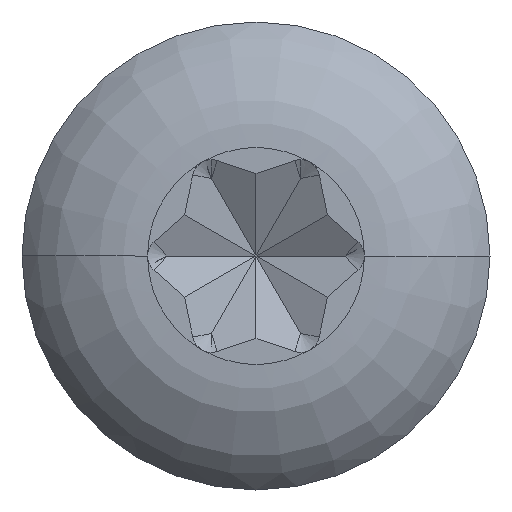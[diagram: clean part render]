
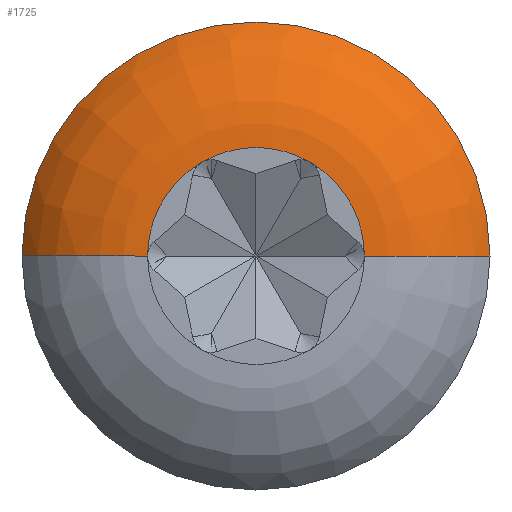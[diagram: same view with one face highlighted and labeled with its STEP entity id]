
A CAD part, left-side view. The second image highlights one B-rep face of the part: STEP entity #1725.
In plain terms, the highlighted toroidal (fillet/blend) face has major radius 2.528 mm and minor radius 3.5 mm.
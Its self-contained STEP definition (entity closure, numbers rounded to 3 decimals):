
#48 = CARTESIAN_POINT ( 'NONE',  ( -15., 0., 0. ) ) ;
#88 = DIRECTION ( 'NONE',  ( 0., -1., 0. ) ) ;
#97 = CARTESIAN_POINT ( 'NONE',  ( -13., 2.528, 0. ) ) ;
#184 = AXIS2_PLACEMENT_3D ( 'NONE', #1369, #626, #2963 ) ;
#231 = AXIS2_PLACEMENT_3D ( 'NONE', #1123, #1895, #2634 ) ;
#299 = CIRCLE ( 'NONE', #2809, 2.5 ) ;
#404 = CIRCLE ( 'NONE', #1892, 5.4 ) ;
#435 = EDGE_LOOP ( 'NONE', ( #2231, #2974, #2707, #1286, #776, #3054 ) ) ;
#482 = DIRECTION ( 'NONE',  ( 0., 0., -1. ) ) ;
#512 = VERTEX_POINT ( 'NONE', #1125 ) ;
#553 = DIRECTION ( 'NONE',  ( -1., 0., 0. ) ) ;
#566 = AXIS2_PLACEMENT_3D ( 'NONE', #97, #637, #1653 ) ;
#626 = DIRECTION ( 'NONE',  ( -1., 0., 0. ) ) ;
#637 = DIRECTION ( 'NONE',  ( 0., 0., 1. ) ) ;
#756 = VERTEX_POINT ( 'NONE', #3270 ) ;
#776 = ORIENTED_EDGE ( 'NONE', *, *, #2131, .F. ) ;
#800 = EDGE_CURVE ( 'NONE', #2331, #806, #884, .T. ) ;
#806 = VERTEX_POINT ( 'NONE', #1573 ) ;
#884 = CIRCLE ( 'NONE', #1412, 3.5 ) ;
#899 = EDGE_CURVE ( 'NONE', #2331, #1916, #404, .T. ) ;
#1036 = VERTEX_POINT ( 'NONE', #3220 ) ;
#1065 = DIRECTION ( 'NONE',  ( -1., 0., 0. ) ) ;
#1123 = CARTESIAN_POINT ( 'NONE',  ( -13., 0., 0. ) ) ;
#1125 = CARTESIAN_POINT ( 'NONE',  ( -16.5, -1.25, 2.165 ) ) ;
#1143 = DIRECTION ( 'NONE',  ( -1., 0., 0. ) ) ;
#1160 = DIRECTION ( 'NONE',  ( 0., -1., 0. ) ) ;
#1170 = DIRECTION ( 'NONE',  ( -1., 0., 0. ) ) ;
#1225 = CARTESIAN_POINT ( 'NONE',  ( -13., -2.528, 0. ) ) ;
#1286 = ORIENTED_EDGE ( 'NONE', *, *, #1941, .F. ) ;
#1369 = CARTESIAN_POINT ( 'NONE',  ( -16.5, 0., 0. ) ) ;
#1403 = CARTESIAN_POINT ( 'NONE',  ( -15., 5.4, 0. ) ) ;
#1412 = AXIS2_PLACEMENT_3D ( 'NONE', #1225, #482, #553 ) ;
#1523 = CIRCLE ( 'NONE', #184, 2.5 ) ;
#1573 = CARTESIAN_POINT ( 'NONE',  ( -16.5, -2.5, 0. ) ) ;
#1627 = AXIS2_PLACEMENT_3D ( 'NONE', #2899, #1170, #88 ) ;
#1650 = FACE_OUTER_BOUND ( 'NONE', #435, .T. ) ;
#1653 = DIRECTION ( 'NONE',  ( 0., -1., 0. ) ) ;
#1678 = CARTESIAN_POINT ( 'NONE',  ( -15., -5.4, 0. ) ) ;
#1725 = ADVANCED_FACE ( 'NONE', ( #1650 ), #2846, .T. ) ;
#1892 = AXIS2_PLACEMENT_3D ( 'NONE', #48, #1065, #3112 ) ;
#1895 = DIRECTION ( 'NONE',  ( -1., 0., 0. ) ) ;
#1916 = VERTEX_POINT ( 'NONE', #1403 ) ;
#1932 = CARTESIAN_POINT ( 'NONE',  ( -16.5, 0., 0. ) ) ;
#1941 = EDGE_CURVE ( 'NONE', #512, #756, #1523, .T. ) ;
#2061 = CIRCLE ( 'NONE', #566, 3.5 ) ;
#2131 = EDGE_CURVE ( 'NONE', #806, #512, #3077, .T. ) ;
#2231 = ORIENTED_EDGE ( 'NONE', *, *, #899, .T. ) ;
#2331 = VERTEX_POINT ( 'NONE', #1678 ) ;
#2634 = DIRECTION ( 'NONE',  ( 0., -1., 0. ) ) ;
#2707 = ORIENTED_EDGE ( 'NONE', *, *, #3236, .F. ) ;
#2809 = AXIS2_PLACEMENT_3D ( 'NONE', #1932, #1143, #1160 ) ;
#2846 = TOROIDAL_SURFACE ( 'NONE', #231, 2.528, 3.5 ) ;
#2899 = CARTESIAN_POINT ( 'NONE',  ( -16.5, 0., 0. ) ) ;
#2963 = DIRECTION ( 'NONE',  ( 0., -1., 0. ) ) ;
#2974 = ORIENTED_EDGE ( 'NONE', *, *, #3155, .T. ) ;
#3054 = ORIENTED_EDGE ( 'NONE', *, *, #800, .F. ) ;
#3077 = CIRCLE ( 'NONE', #1627, 2.5 ) ;
#3112 = DIRECTION ( 'NONE',  ( 0., -1., 0. ) ) ;
#3155 = EDGE_CURVE ( 'NONE', #1916, #1036, #2061, .T. ) ;
#3220 = CARTESIAN_POINT ( 'NONE',  ( -16.5, 2.5, 0. ) ) ;
#3236 = EDGE_CURVE ( 'NONE', #756, #1036, #299, .T. ) ;
#3270 = CARTESIAN_POINT ( 'NONE',  ( -16.5, 1.25, 2.165 ) ) ;
